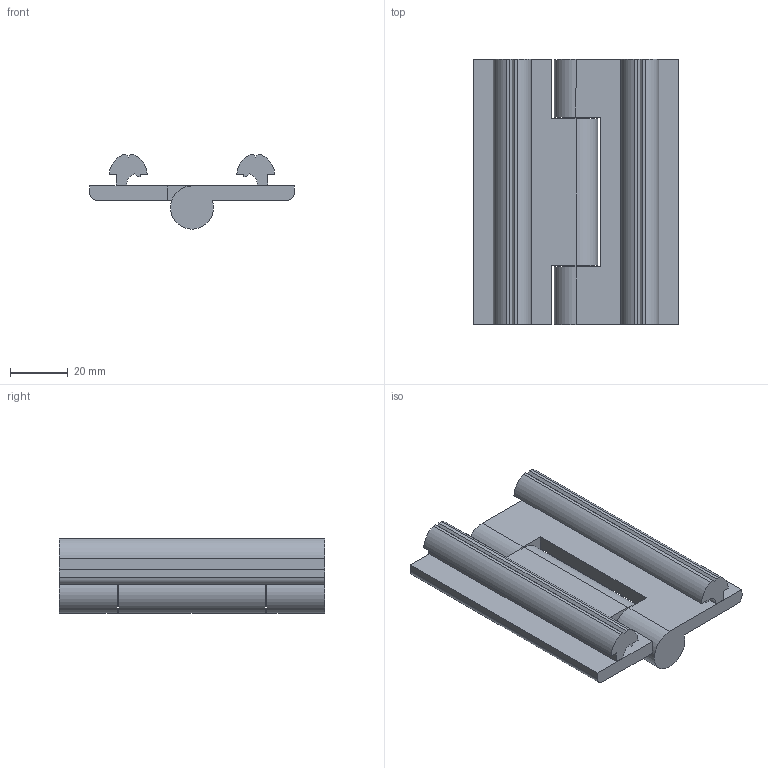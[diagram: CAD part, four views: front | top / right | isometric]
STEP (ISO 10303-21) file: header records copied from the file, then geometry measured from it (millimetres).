
FILE_DESCRIPTION (( 'STEP AP203' ), '1' );
FILE_NAME ('TCAH 90 B Hinge AL 90, With round holes, without anti-rotation elements (01-06-2021).STEP', '2021-06-01T06:10:34', ( '' ), ( '' ), 'SwSTEP 2.0', 'SolidWorks 2020', '' );
FILE_SCHEMA (( 'CONFIG_CONTROL_DESIGN' ));
Length unit declared in the file: millimetre
Products named in the file (1): TCAH 90 B Hinge AL 90, With round holes, without anti-rotation elements (01-06-2021)
Bounding box: 71 x 92 x 25.8 mm (x, y, z)
Volume: 58086 mm3; surface area: 25636.3 mm2
Topology: 3 solids, 3 shells, 137 faces, 351 edges, 234 vertices
Faces by surface type: plane 103, cylinder 34
Entity records: 4210 total; most frequent: CARTESIAN_POINT 723, ORIENTED_EDGE 702, DIRECTION 695, EDGE_CURVE 351, LINE 283, VECTOR 283, VERTEX_POINT 234, AXIS2_PLACEMENT_3D 206
